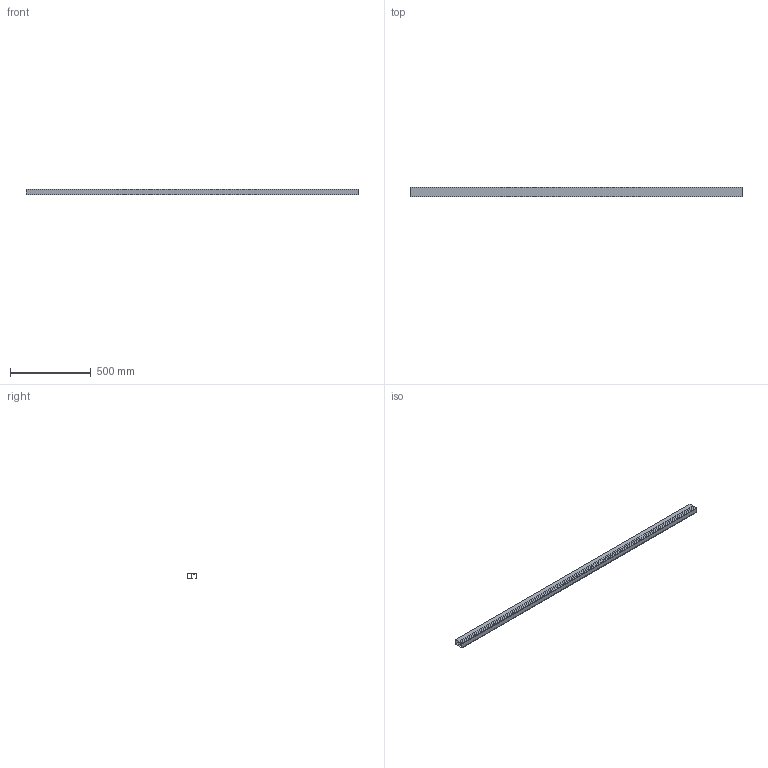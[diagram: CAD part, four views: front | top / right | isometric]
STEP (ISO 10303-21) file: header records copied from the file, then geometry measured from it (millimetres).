
FILE_DESCRIPTION(('STEP AP242'),'1');
FILE_NAME('OPO_65.081.41.stp','2026-01-30T20:50:22',(' '),(' '),'Spatial InterOp 3D',' ',' ');
FILE_SCHEMA(('AP242_MANAGED_MODEL_BASED_3D_ENGINEERING_MIM_LF {1 0 10303 442 1 1 4}'));
Length unit declared in the file: millimetre
Products named in the file (1): 1
Bounding box: 2050 x 59 x 33 mm (x, y, z)
Volume: 975671.9 mm3; surface area: 803343.9 mm2
Topology: 1 solids, 1 shells, 88 faces, 244 edges, 162 vertices
Faces by surface type: plane 68, cylinder 20
Entity records: 3516 total; most frequent: CARTESIAN_POINT 495, ORIENTED_EDGE 488, DIRECTION 462, EDGE_CURVE 244, LINE 204, VECTOR 204, VERTEX_POINT 162, AXIS2_PLACEMENT_3D 129
